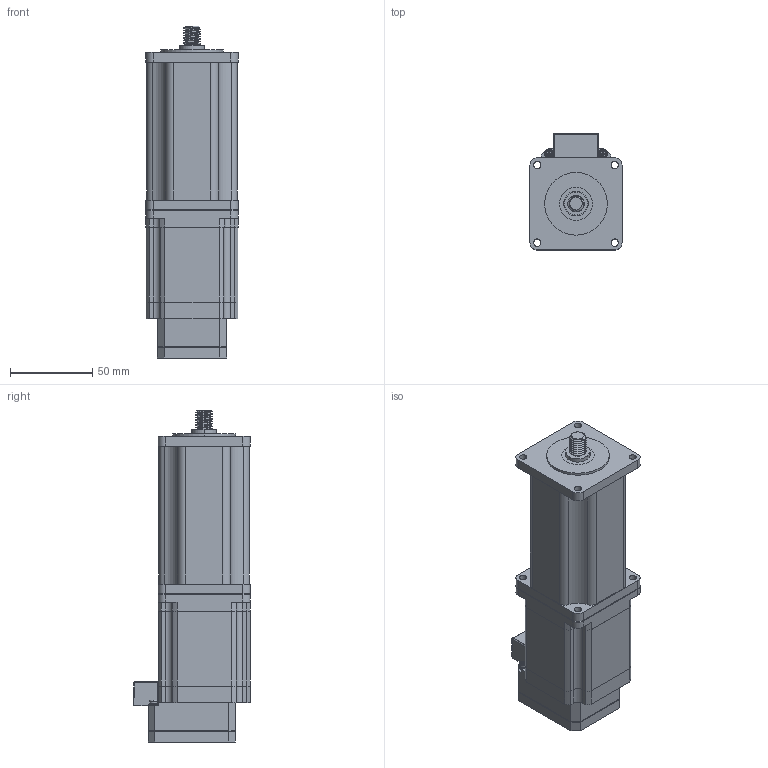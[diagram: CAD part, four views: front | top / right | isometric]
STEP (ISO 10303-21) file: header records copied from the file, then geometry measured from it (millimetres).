
FILE_DESCRIPTION (( 'STEP AP214' ), '1' );
FILE_NAME ('CSR-23-2.00-CM1.STEP', '2015-01-26T20:24:06', ( '' ), ( '' ), 'SwSTEP 2.0', 'SolidWorks 2015', '' );
FILE_SCHEMA (( 'AUTOMOTIVE_DESIGN' ));
Length unit declared in the file: millimetre
Products named in the file (1): CSR-23-2.00-CM1
Bounding box: 56 x 70.81 x 201.8 mm (x, y, z)
Volume: 490979.5 mm3; surface area: 61907.2 mm2
Topology: 4 solids, 8 shells, 969 faces, 2723 edges, 1763 vertices
Faces by surface type: plane 638, cylinder 297, cone 28, bspline 6
Entity records: 42688 total; most frequent: CARTESIAN_POINT 6667, ORIENTED_EDGE 5422, DIRECTION 5122, EDGE_CURVE 2711, VECTOR 2058, LINE 2058, VERTEX_POINT 1763, AXIS2_PLACEMENT_3D 1532
